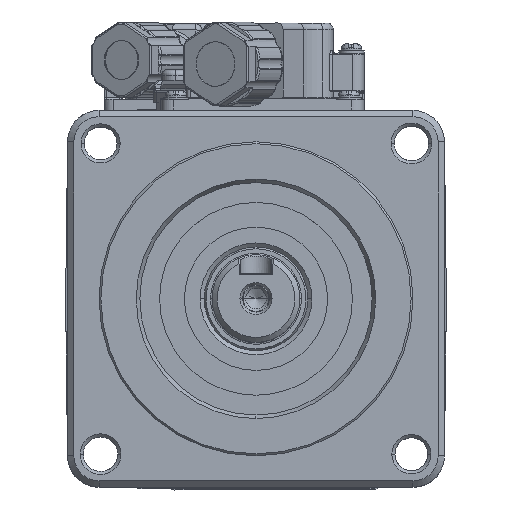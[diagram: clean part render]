
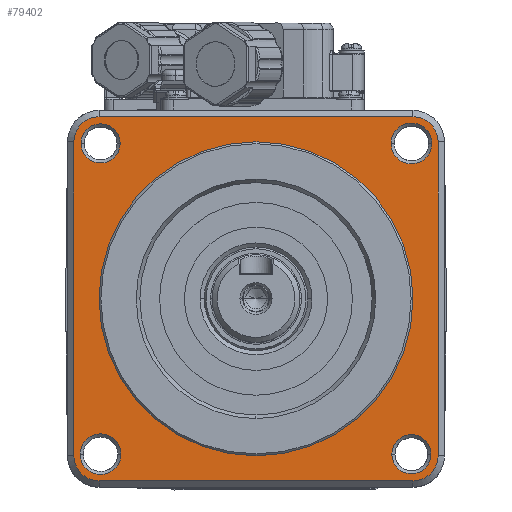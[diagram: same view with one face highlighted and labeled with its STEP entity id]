
A CAD part, top view. The second image highlights one B-rep face of the part: STEP entity #79402.
In plain terms, the highlighted planar face has unit normal (0, 0, 1).
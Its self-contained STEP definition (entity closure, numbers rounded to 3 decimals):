
#23250=CARTESIAN_POINT('',(25.,-25.,105.51));
#23251=DIRECTION('',(0.,0.,-1.));
#23252=DIRECTION('',(1.,0.,0.));
#23253=AXIS2_PLACEMENT_3D('',#23250,#23251,#23252);
#23255=DIRECTION('',(-1.,0.,0.));
#23256=VECTOR('',#23255,50.);
#23257=CARTESIAN_POINT('',(25.,-29.,
105.51));
#23258=LINE('',#23257,#23256);
#23259=CARTESIAN_POINT('',(-25.,-25.,105.51));
#23260=DIRECTION('',(0.,0.,-1.));
#23261=DIRECTION('',(0.,-1.,0.));
#23262=AXIS2_PLACEMENT_3D('',#23259,#23260,#23261);
#23264=DIRECTION('',(0.,1.,0.));
#23265=VECTOR('',#23264,50.);
#23266=CARTESIAN_POINT('',(-29.,-25.,
105.51));
#23267=LINE('',#23266,#23265);
#23268=CARTESIAN_POINT('',(-25.,25.,105.51));
#23269=DIRECTION('',(0.,0.,-1.));
#23270=DIRECTION('',(-1.,0.,0.));
#23271=AXIS2_PLACEMENT_3D('',#23268,#23269,#23270);
#23273=DIRECTION('',(1.,0.,0.));
#23274=VECTOR('',#23273,50.);
#23275=CARTESIAN_POINT('',(-25.,29.,
105.51));
#23276=LINE('',#23275,#23274);
#23277=CARTESIAN_POINT('',(25.,25.,105.51));
#23278=DIRECTION('',(0.,0.,-1.));
#23279=DIRECTION('',(0.,1.,0.));
#23280=AXIS2_PLACEMENT_3D('',#23277,#23278,#23279);
#23282=DIRECTION('',(0.,-1.,0.));
#23283=VECTOR('',#23282,50.);
#23284=CARTESIAN_POINT('',(29.,25.,105.51));
#23285=LINE('',#23284,#23283);
#23286=CARTESIAN_POINT('',(0.,0.,105.51));
#23287=DIRECTION('',(0.,0.,1.));
#23288=DIRECTION('',(0.,-1.,0.));
#23289=AXIS2_PLACEMENT_3D('',#23286,#23287,#23288);
#23291=CARTESIAN_POINT('',(0.,0.,105.51));
#23292=DIRECTION('',(0.,0.,1.));
#23293=DIRECTION('',(0.,1.,0.));
#23294=AXIS2_PLACEMENT_3D('',#23291,#23292,#23293);
#24465=CARTESIAN_POINT('',(24.749,24.749,105.51));
#24466=DIRECTION('',(0.,0.,-1.));
#24467=DIRECTION('',(1.,0.,0.));
#24468=AXIS2_PLACEMENT_3D('',#24465,#24466,#24467);
#24474=CARTESIAN_POINT('',(24.749,24.749,105.51));
#24475=DIRECTION('',(0.,0.,-1.));
#24476=DIRECTION('',(-1.,0.,0.));
#24477=AXIS2_PLACEMENT_3D('',#24474,#24475,#24476);
#25191=CARTESIAN_POINT('',(-24.749,-24.749,105.51));
#25192=DIRECTION('',(0.,0.,-1.));
#25193=DIRECTION('',(1.,0.,0.));
#25194=AXIS2_PLACEMENT_3D('',#25191,#25192,#25193);
#25200=CARTESIAN_POINT('',(-24.749,-24.749,105.51));
#25201=DIRECTION('',(0.,0.,-1.));
#25202=DIRECTION('',(-1.,0.,0.));
#25203=AXIS2_PLACEMENT_3D('',#25200,#25201,#25202);
#25804=CARTESIAN_POINT('',(24.749,-24.749,105.51));
#25805=DIRECTION('',(0.,0.,-1.));
#25806=DIRECTION('',(1.,0.,0.));
#25807=AXIS2_PLACEMENT_3D('',#25804,#25805,#25806);
#25813=CARTESIAN_POINT('',(24.749,-24.749,105.51));
#25814=DIRECTION('',(0.,0.,-1.));
#25815=DIRECTION('',(-1.,0.,0.));
#25816=AXIS2_PLACEMENT_3D('',#25813,#25814,#25815);
#42156=CARTESIAN_POINT('',(-24.749,24.749,105.51));
#42157=DIRECTION('',(0.,0.,-1.));
#42158=DIRECTION('',(1.,0.,0.));
#42159=AXIS2_PLACEMENT_3D('',#42156,#42157,#42158);
#42165=CARTESIAN_POINT('',(-24.749,24.749,105.51));
#42166=DIRECTION('',(0.,0.,-1.));
#42167=DIRECTION('',(-1.,0.,0.));
#42168=AXIS2_PLACEMENT_3D('',#42165,#42166,#42167);
#43768=CARTESIAN_POINT('',(0.,-25.,105.51));
#43769=VERTEX_POINT('',#43768);
#43770=CARTESIAN_POINT('',(0.,25.,105.51));
#43771=VERTEX_POINT('',#43770);
#43780=CARTESIAN_POINT('',(29.,-25.,105.51));
#43781=CARTESIAN_POINT('',(25.,-29.,105.51));
#43782=VERTEX_POINT('',#43780);
#43783=VERTEX_POINT('',#43781);
#43784=CARTESIAN_POINT('',(-25.,-29.,
105.51));
#43785=VERTEX_POINT('',#43784);
#43786=CARTESIAN_POINT('',(-29.,-25.,105.51));
#43787=VERTEX_POINT('',#43786);
#43788=CARTESIAN_POINT('',(-29.,25.,
105.51));
#43789=VERTEX_POINT('',#43788);
#43790=CARTESIAN_POINT('',(-25.,29.,105.51));
#43791=VERTEX_POINT('',#43790);
#43792=CARTESIAN_POINT('',(25.,29.,105.51));
#43793=VERTEX_POINT('',#43792);
#43794=CARTESIAN_POINT('',(29.,25.,105.51));
#43795=VERTEX_POINT('',#43794);
#44045=CARTESIAN_POINT('',(-27.99,-24.749,105.51));
#44046=VERTEX_POINT('',#44045);
#44047=CARTESIAN_POINT('',(-21.507,-24.749,105.51));
#44048=VERTEX_POINT('',#44047);
#44053=CARTESIAN_POINT('',(21.633,-24.749,105.51));
#44054=VERTEX_POINT('',#44053);
#44055=CARTESIAN_POINT('',(27.864,-24.749,105.51));
#44056=VERTEX_POINT('',#44055);
#44185=CARTESIAN_POINT('',(-27.864,24.749,105.51));
#44186=VERTEX_POINT('',#44185);
#44187=CARTESIAN_POINT('',(-21.633,24.749,105.51));
#44188=VERTEX_POINT('',#44187);
#44246=CARTESIAN_POINT('',(21.507,24.749,105.51));
#44247=VERTEX_POINT('',#44246);
#44248=CARTESIAN_POINT('',(27.99,24.749,105.51));
#44249=VERTEX_POINT('',#44248);
#79350=CARTESIAN_POINT('',(0.,0.,105.51));
#79351=DIRECTION('',(0.,0.,1.));
#79352=DIRECTION('',(0.,1.,0.));
#79353=AXIS2_PLACEMENT_3D('',#79350,#79351,#79352);
#79354=PLANE('',#79353);
#79356=ORIENTED_EDGE('',*,*,#79355,.T.);
#79358=ORIENTED_EDGE('',*,*,#79357,.T.);
#79360=ORIENTED_EDGE('',*,*,#79359,.T.);
#79361=ORIENTED_EDGE('',*,*,#79340,.T.);
#79363=ORIENTED_EDGE('',*,*,#79362,.T.);
#79365=ORIENTED_EDGE('',*,*,#79364,.T.);
#79367=ORIENTED_EDGE('',*,*,#79366,.T.);
#79369=ORIENTED_EDGE('',*,*,#79368,.T.);
#79370=EDGE_LOOP('',(#79356,#79358,#79360,#79361,#79363,#79365,#79367,#79369));
#79371=FACE_OUTER_BOUND('',#79370,.F.);
#79373=ORIENTED_EDGE('',*,*,#79372,.T.);
#79375=ORIENTED_EDGE('',*,*,#79374,.T.);
#79376=EDGE_LOOP('',(#79373,#79375));
#79377=FACE_BOUND('',#79376,.F.);
#79379=ORIENTED_EDGE('',*,*,#79378,.F.);
#79381=ORIENTED_EDGE('',*,*,#79380,.F.);
#79382=EDGE_LOOP('',(#79379,#79381));
#79383=FACE_BOUND('',#79382,.F.);
#79385=ORIENTED_EDGE('',*,*,#79384,.F.);
#79387=ORIENTED_EDGE('',*,*,#79386,.F.);
#79388=EDGE_LOOP('',(#79385,#79387));
#79389=FACE_BOUND('',#79388,.F.);
#79391=ORIENTED_EDGE('',*,*,#79390,.F.);
#79393=ORIENTED_EDGE('',*,*,#79392,.F.);
#79394=EDGE_LOOP('',(#79391,#79393));
#79395=FACE_BOUND('',#79394,.F.);
#79397=ORIENTED_EDGE('',*,*,#79396,.F.);
#79399=ORIENTED_EDGE('',*,*,#79398,.F.);
#79400=EDGE_LOOP('',(#79397,#79399));
#79401=FACE_BOUND('',#79400,.F.);
#79402=ADVANCED_FACE('',(#79371,#79377,#79383,#79389,#79395,#79401),#79354,.T.);
#23254=CIRCLE('',#23253,4.);
#23263=CIRCLE('',#23262,4.);
#23272=CIRCLE('',#23271,4.);
#23281=CIRCLE('',#23280,4.);
#23290=CIRCLE('',#23289,25.);
#23295=CIRCLE('',#23294,25.);
#24469=CIRCLE('',#24468,3.241);
#24478=CIRCLE('',#24477,3.241);
#25195=CIRCLE('',#25194,3.241);
#25204=CIRCLE('',#25203,3.241);
#25808=CIRCLE('',#25807,3.116);
#25817=CIRCLE('',#25816,3.116);
#42160=CIRCLE('',#42159,3.116);
#42169=CIRCLE('',#42168,3.116);
#79340=EDGE_CURVE('',#43787,#43789,#23267,.T.);
#79355=EDGE_CURVE('',#43782,#43783,#23254,.T.);
#79357=EDGE_CURVE('',#43783,#43785,#23258,.T.);
#79359=EDGE_CURVE('',#43785,#43787,#23263,.T.);
#79362=EDGE_CURVE('',#43789,#43791,#23272,.T.);
#79364=EDGE_CURVE('',#43791,#43793,#23276,.T.);
#79366=EDGE_CURVE('',#43793,#43795,#23281,.T.);
#79368=EDGE_CURVE('',#43795,#43782,#23285,.T.);
#79372=EDGE_CURVE('',#43769,#43771,#23290,.T.);
#79374=EDGE_CURVE('',#43771,#43769,#23295,.T.);
#79378=EDGE_CURVE('',#44054,#44056,#25817,.T.);
#79380=EDGE_CURVE('',#44056,#44054,#25808,.T.);
#79384=EDGE_CURVE('',#44247,#44249,#24478,.T.);
#79386=EDGE_CURVE('',#44249,#44247,#24469,.T.);
#79390=EDGE_CURVE('',#44186,#44188,#42169,.T.);
#79392=EDGE_CURVE('',#44188,#44186,#42160,.T.);
#79396=EDGE_CURVE('',#44048,#44046,#25195,.T.);
#79398=EDGE_CURVE('',#44046,#44048,#25204,.T.);
